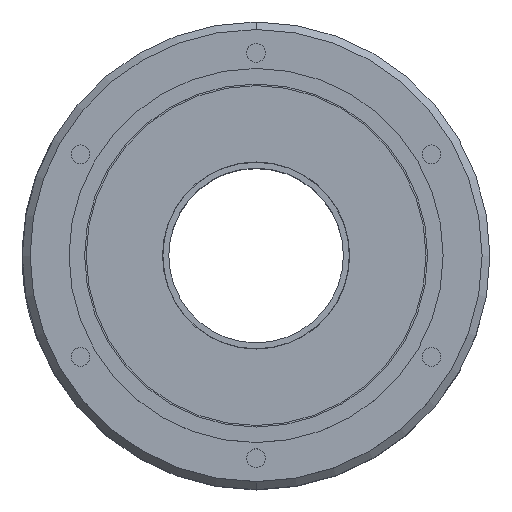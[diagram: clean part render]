
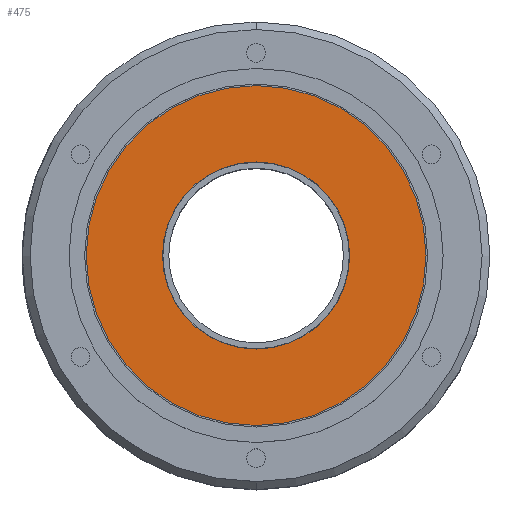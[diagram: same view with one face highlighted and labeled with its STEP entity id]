
A CAD part, top view. The second image highlights one B-rep face of the part: STEP entity #475.
In plain terms, the highlighted planar face has unit normal (0, 0, 1).
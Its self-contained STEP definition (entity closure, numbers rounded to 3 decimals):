
#427 = EDGE_LOOP ( 'NONE', ( #496, #480 ) ) ;
#437 = ORIENTED_EDGE ( 'NONE', *, *, #476, .F. ) ;
#475 = ADVANCED_FACE ( 'NONE', ( #2210, #2193 ), #2185, .T. ) ;
#476 = EDGE_CURVE ( 'NONE', #5101, #5047, #2182, .T. ) ;
#477 = EDGE_CURVE ( 'NONE', #5035, #5065, #2181, .T. ) ;
#480 = ORIENTED_EDGE ( 'NONE', *, *, #477, .T. ) ;
#488 = ORIENTED_EDGE ( 'NONE', *, *, #5089, .F. ) ;
#493 = EDGE_LOOP ( 'NONE', ( #437, #488 ) ) ;
#496 = ORIENTED_EDGE ( 'NONE', *, *, #5055, .T. ) ;
#2181 = CIRCLE ( 'NONE', #2245, 54.5 ) ;
#2182 = CIRCLE ( 'NONE', #2237, 30. ) ;
#2185 = PLANE ( 'NONE',  #2192 ) ;
#2192 = AXIS2_PLACEMENT_3D ( 'NONE', #2241, #2240, #2239 ) ;
#2193 = FACE_OUTER_BOUND ( 'NONE', #427, .T. ) ;
#2210 = FACE_BOUND ( 'NONE', #493, .T. ) ;
#2227 = DIRECTION ( 'NONE',  ( 1., 0., 0. ) ) ;
#2233 = DIRECTION ( 'NONE',  ( 0., 0., 1. ) ) ;
#2234 = DIRECTION ( 'NONE',  ( 1., 0., 0. ) ) ;
#2235 = DIRECTION ( 'NONE',  ( 0., 0., 1. ) ) ;
#2236 = CARTESIAN_POINT ( 'NONE',  ( 0., 0., 123. ) ) ;
#2237 = AXIS2_PLACEMENT_3D ( 'NONE', #2236, #2235, #2234 ) ;
#2238 = CARTESIAN_POINT ( 'NONE',  ( 0., 0., 123. ) ) ;
#2239 = DIRECTION ( 'NONE',  ( 0., -1., 0. ) ) ;
#2240 = DIRECTION ( 'NONE',  ( 0., 0., 1. ) ) ;
#2241 = CARTESIAN_POINT ( 'NONE',  ( 0., -28., 123. ) ) ;
#2245 = AXIS2_PLACEMENT_3D ( 'NONE', #2238, #2233, #2227 ) ;
#4119 = CARTESIAN_POINT ( 'NONE',  ( -54.5, 0., 123. ) ) ;
#4141 = DIRECTION ( 'NONE',  ( 0., 0., 1. ) ) ;
#4144 = CIRCLE ( 'NONE', #4147, 54.5 ) ;
#4147 = AXIS2_PLACEMENT_3D ( 'NONE', #4160, #4141, #4200 ) ;
#4154 = CARTESIAN_POINT ( 'NONE',  ( -30., 0., 123. ) ) ;
#4160 = CARTESIAN_POINT ( 'NONE',  ( 0., 0., 123. ) ) ;
#4189 = CARTESIAN_POINT ( 'NONE',  ( 54.5, 0., 123. ) ) ;
#4200 = DIRECTION ( 'NONE',  ( 1., 0., 0. ) ) ;
#4202 = CARTESIAN_POINT ( 'NONE',  ( 0., 0., 123. ) ) ;
#4229 = CARTESIAN_POINT ( 'NONE',  ( 30., 0., 123. ) ) ;
#4248 = DIRECTION ( 'NONE',  ( 1., 0., 0. ) ) ;
#4249 = DIRECTION ( 'NONE',  ( 0., 0., 1. ) ) ;
#4250 = AXIS2_PLACEMENT_3D ( 'NONE', #4202, #4249, #4248 ) ;
#4251 = CIRCLE ( 'NONE', #4250, 30. ) ;
#5035 = VERTEX_POINT ( 'NONE', #4119 ) ;
#5047 = VERTEX_POINT ( 'NONE', #4154 ) ;
#5055 = EDGE_CURVE ( 'NONE', #5065, #5035, #4144, .T. ) ;
#5065 = VERTEX_POINT ( 'NONE', #4189 ) ;
#5089 = EDGE_CURVE ( 'NONE', #5047, #5101, #4251, .T. ) ;
#5101 = VERTEX_POINT ( 'NONE', #4229 ) ;
